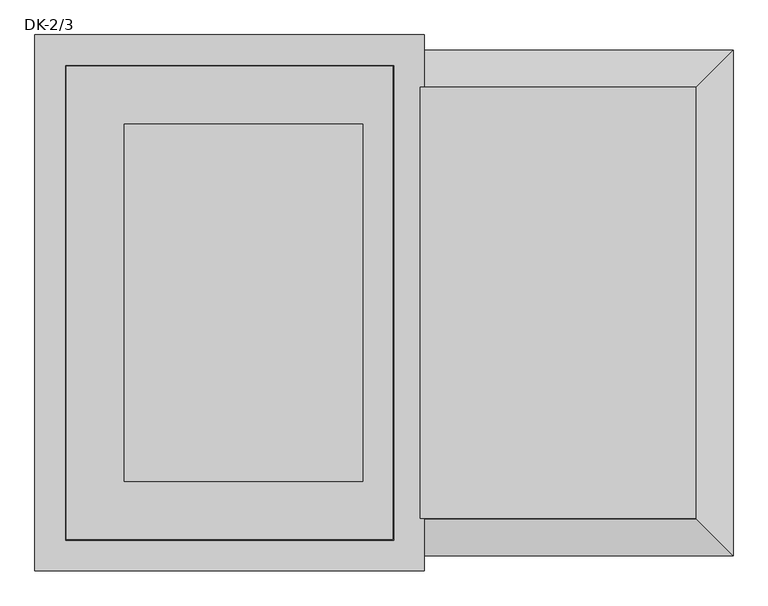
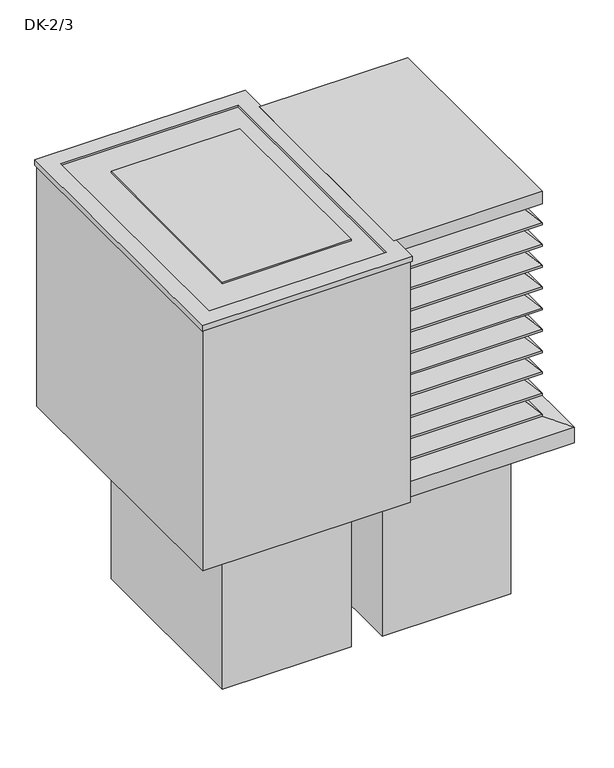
"""IFC4 building model written with IfcOpenShell, lengths in millimetres: air terminal geometry, NLRS_57_AIR_FB_Dakkap DK-23_SMA : DK-2/3."""

from ifc_helpers import new_model, si_unit, frame, origin, place, context, project, spatial, polyline, outline, extrude, faceted_brep, source, transform, mapped, element, save


def dk_2_3_f9d83f74(model_context):
    return source(origin(), model_context, "Body", "SolidModel", [
        faceted_brep([(462.5, 362.5, 780.0), (462.5, 362.5, 786.36499), (462.5, -362.5, 786.36499), (462.5, -362.5, 780.0), (461.5, 361.5, 785.9507764), (461.5, 361.5, 780.0), (461.5, -361.5, 780.0), (461.5, -361.5, 785.9507764), (400.0, 300.0, 847.4507764), (400.0, -300.0, 847.4507764), (400.0, 300.0, 850.0), (400.0, -300.0, 850.0), (401.0, 301.0, 847.86499), (401.0, 301.0, 850.0), (401.0, -301.0, 850.0), (401.0, -301.0, 847.86499), (0.0, -362.5, 786.36499), (0.0, -362.5, 780.0), (0.0, -361.5, 780.0), (0.0, -361.5, 785.9507764), (0.0, -300.0, 847.4507764), (0.0, -300.0, 850.0), (0.0, -301.0, 850.0), (0.0, -301.0, 847.86499), (0.0, 362.5, 780.0), (0.0, 362.5, 786.36499), (0.0, 361.5, 780.0), (0.0, 361.5, 785.9507764), (0.0, 300.0, 847.4507764), (0.0, 300.0, 850.0), (0.0, 301.0, 850.0), (0.0, 301.0, 847.86499)], [[[0, 1, 2, 3]], [[4, 5, 6, 7]], [[8, 4, 7, 9]], [[10, 8, 9, 11]], [[12, 13, 14, 15]], [[1, 12, 15, 2]], [[3, 2, 16, 17]], [[7, 6, 18, 19]], [[9, 7, 19, 20]], [[11, 9, 20, 21]], [[15, 14, 22, 23]], [[2, 15, 23, 16]], [[24, 25, 1, 0]], [[26, 24, 0, 3, 17, 18, 6, 5]], [[27, 26, 5, 4]], [[28, 27, 4, 8]], [[29, 28, 8, 10]], [[30, 29, 10, 11, 21, 22, 14, 13]], [[31, 30, 13, 12]], [[25, 31, 12, 1]], [[25, 24, 26, 27, 28, 29, 30, 31]], [[16, 23, 22, 21, 20, 19, 18, 17]]]),
        faceted_brep([(462.5, 362.5, 710.0), (462.5, 362.5, 716.36499), (462.5, -362.5, 716.36499), (462.5, -362.5, 710.0), (461.5, 361.5, 715.9507764), (461.5, 361.5, 710.0), (461.5, -361.5, 710.0), (461.5, -361.5, 715.9507764), (400.0, 300.0, 777.4507764), (400.0, -300.0, 777.4507764), (400.0, 300.0, 780.0), (400.0, -300.0, 780.0), (401.0, 301.0, 777.86499), (401.0, 301.0, 780.0), (401.0, -301.0, 780.0), (401.0, -301.0, 777.86499), (0.0, -362.5, 716.36499), (0.0, -362.5, 710.0), (0.0, -361.5, 710.0), (0.0, -361.5, 715.9507764), (0.0, -300.0, 777.4507764), (0.0, -300.0, 780.0), (0.0, -301.0, 780.0), (0.0, -301.0, 777.86499), (0.0, 362.5, 710.0), (0.0, 362.5, 716.36499), (0.0, 361.5, 710.0), (0.0, 361.5, 715.9507764), (0.0, 300.0, 777.4507764), (0.0, 300.0, 780.0), (0.0, 301.0, 780.0), (0.0, 301.0, 777.86499)], [[[0, 1, 2, 3]], [[4, 5, 6, 7]], [[8, 4, 7, 9]], [[10, 8, 9, 11]], [[12, 13, 14, 15]], [[1, 12, 15, 2]], [[3, 2, 16, 17]], [[7, 6, 18, 19]], [[9, 7, 19, 20]], [[11, 9, 20, 21]], [[15, 14, 22, 23]], [[2, 15, 23, 16]], [[24, 25, 1, 0]], [[26, 24, 0, 3, 17, 18, 6, 5]], [[27, 26, 5, 4]], [[28, 27, 4, 8]], [[29, 28, 8, 10]], [[30, 29, 10, 11, 21, 22, 14, 13]], [[31, 30, 13, 12]], [[25, 31, 12, 1]], [[25, 24, 26, 27, 28, 29, 30, 31]], [[16, 23, 22, 21, 20, 19, 18, 17]]]),
        faceted_brep([(462.5, 362.5, 640.0), (462.5, 362.5, 646.36499), (462.5, -362.5, 646.36499), (462.5, -362.5, 640.0), (461.5, 361.5, 645.9507764), (461.5, 361.5, 640.0), (461.5, -361.5, 640.0), (461.5, -361.5, 645.9507764), (400.0, 300.0, 707.4507764), (400.0, -300.0, 707.4507764), (400.0, 300.0, 710.0), (400.0, -300.0, 710.0), (401.0, 301.0, 707.86499), (401.0, 301.0, 710.0), (401.0, -301.0, 710.0), (401.0, -301.0, 707.86499), (0.0, -362.5, 646.36499), (0.0, -362.5, 640.0), (0.0, -361.5, 640.0), (0.0, -361.5, 645.9507764), (0.0, -300.0, 707.4507764), (0.0, -300.0, 710.0), (0.0, -301.0, 710.0), (0.0, -301.0, 707.86499), (0.0, 362.5, 640.0), (0.0, 362.5, 646.36499), (0.0, 361.5, 640.0), (0.0, 361.5, 645.9507764), (0.0, 300.0, 707.4507764), (0.0, 300.0, 710.0), (0.0, 301.0, 710.0), (0.0, 301.0, 707.86499)], [[[0, 1, 2, 3]], [[4, 5, 6, 7]], [[8, 4, 7, 9]], [[10, 8, 9, 11]], [[12, 13, 14, 15]], [[1, 12, 15, 2]], [[3, 2, 16, 17]], [[7, 6, 18, 19]], [[9, 7, 19, 20]], [[11, 9, 20, 21]], [[15, 14, 22, 23]], [[2, 15, 23, 16]], [[24, 25, 1, 0]], [[26, 24, 0, 3, 17, 18, 6, 5]], [[27, 26, 5, 4]], [[28, 27, 4, 8]], [[29, 28, 8, 10]], [[30, 29, 10, 11, 21, 22, 14, 13]], [[31, 30, 13, 12]], [[25, 31, 12, 1]], [[25, 24, 26, 27, 28, 29, 30, 31]], [[16, 23, 22, 21, 20, 19, 18, 17]]]),
        faceted_brep([(462.5, 362.5, 570.0), (462.5, 362.5, 576.36499), (462.5, -362.5, 576.36499), (462.5, -362.5, 570.0), (461.5, 361.5, 575.9507764), (461.5, 361.5, 570.0), (461.5, -361.5, 570.0), (461.5, -361.5, 575.9507764), (400.0, 300.0, 637.4507764), (400.0, -300.0, 637.4507764), (400.0, 300.0, 640.0), (400.0, -300.0, 640.0), (401.0, 301.0, 637.86499), (401.0, 301.0, 640.0), (401.0, -301.0, 640.0), (401.0, -301.0, 637.86499), (0.0, -362.5, 576.36499), (0.0, -362.5, 570.0), (0.0, -361.5, 570.0), (0.0, -361.5, 575.9507764), (0.0, -300.0, 637.4507764), (0.0, -300.0, 640.0), (0.0, -301.0, 640.0), (0.0, -301.0, 637.86499), (0.0, 362.5, 570.0), (0.0, 362.5, 576.36499), (0.0, 361.5, 570.0), (0.0, 361.5, 575.9507764), (0.0, 300.0, 637.4507764), (0.0, 300.0, 640.0), (0.0, 301.0, 640.0), (0.0, 301.0, 637.86499)], [[[0, 1, 2, 3]], [[4, 5, 6, 7]], [[8, 4, 7, 9]], [[10, 8, 9, 11]], [[12, 13, 14, 15]], [[1, 12, 15, 2]], [[3, 2, 16, 17]], [[7, 6, 18, 19]], [[9, 7, 19, 20]], [[11, 9, 20, 21]], [[15, 14, 22, 23]], [[2, 15, 23, 16]], [[24, 25, 1, 0]], [[26, 24, 0, 3, 17, 18, 6, 5]], [[27, 26, 5, 4]], [[28, 27, 4, 8]], [[29, 28, 8, 10]], [[30, 29, 10, 11, 21, 22, 14, 13]], [[31, 30, 13, 12]], [[25, 31, 12, 1]], [[25, 24, 26, 27, 28, 29, 30, 31]], [[16, 23, 22, 21, 20, 19, 18, 17]]]),
        faceted_brep([(462.5, 362.5, 500.0), (462.5, 362.5, 506.36499), (462.5, -362.5, 506.36499), (462.5, -362.5, 500.0), (461.5, 361.5, 505.9507764), (461.5, 361.5, 500.0), (461.5, -361.5, 500.0), (461.5, -361.5, 505.9507764), (400.0, 300.0, 567.4507764), (400.0, -300.0, 567.4507764), (400.0, 300.0, 570.0), (400.0, -300.0, 570.0), (401.0, 301.0, 567.86499), (401.0, 301.0, 570.0), (401.0, -301.0, 570.0), (401.0, -301.0, 567.86499), (0.0, -362.5, 506.36499), (0.0, -362.5, 500.0), (0.0, -361.5, 500.0), (0.0, -361.5, 505.9507764), (0.0, -300.0, 567.4507764), (0.0, -300.0, 570.0), (0.0, -301.0, 570.0), (0.0, -301.0, 567.86499), (0.0, 362.5, 500.0), (0.0, 362.5, 506.36499), (0.0, 361.5, 500.0), (0.0, 361.5, 505.9507764), (0.0, 300.0, 567.4507764), (0.0, 300.0, 570.0), (0.0, 301.0, 570.0), (0.0, 301.0, 567.86499)], [[[0, 1, 2, 3]], [[4, 5, 6, 7]], [[8, 4, 7, 9]], [[10, 8, 9, 11]], [[12, 13, 14, 15]], [[1, 12, 15, 2]], [[3, 2, 16, 17]], [[7, 6, 18, 19]], [[9, 7, 19, 20]], [[11, 9, 20, 21]], [[15, 14, 22, 23]], [[2, 15, 23, 16]], [[24, 25, 1, 0]], [[26, 24, 0, 3, 17, 18, 6, 5]], [[27, 26, 5, 4]], [[28, 27, 4, 8]], [[29, 28, 8, 10]], [[30, 29, 10, 11, 21, 22, 14, 13]], [[31, 30, 13, 12]], [[25, 31, 12, 1]], [[25, 24, 26, 27, 28, 29, 30, 31]], [[16, 23, 22, 21, 20, 19, 18, 17]]]),
        faceted_brep([(462.5, 362.5, 430.0), (462.5, 362.5, 436.36499), (462.5, -362.5, 436.36499), (462.5, -362.5, 430.0), (461.5, 361.5, 435.9507764), (461.5, 361.5, 430.0), (461.5, -361.5, 430.0), (461.5, -361.5, 435.9507764), (400.0, 300.0, 497.4507764), (400.0, -300.0, 497.4507764), (400.0, 300.0, 500.0), (400.0, -300.0, 500.0), (401.0, 301.0, 497.86499), (401.0, 301.0, 500.0), (401.0, -301.0, 500.0), (401.0, -301.0, 497.86499), (0.0, -362.5, 436.36499), (0.0, -362.5, 430.0), (0.0, -361.5, 430.0), (0.0, -361.5, 435.9507764), (0.0, -300.0, 497.4507764), (0.0, -300.0, 500.0), (0.0, -301.0, 500.0), (0.0, -301.0, 497.86499), (0.0, 362.5, 430.0), (0.0, 362.5, 436.36499), (0.0, 361.5, 430.0), (0.0, 361.5, 435.9507764), (0.0, 300.0, 497.4507764), (0.0, 300.0, 500.0), (0.0, 301.0, 500.0), (0.0, 301.0, 497.86499)], [[[0, 1, 2, 3]], [[4, 5, 6, 7]], [[8, 4, 7, 9]], [[10, 8, 9, 11]], [[12, 13, 14, 15]], [[1, 12, 15, 2]], [[3, 2, 16, 17]], [[7, 6, 18, 19]], [[9, 7, 19, 20]], [[11, 9, 20, 21]], [[15, 14, 22, 23]], [[2, 15, 23, 16]], [[24, 25, 1, 0]], [[26, 24, 0, 3, 17, 18, 6, 5]], [[27, 26, 5, 4]], [[28, 27, 4, 8]], [[29, 28, 8, 10]], [[30, 29, 10, 11, 21, 22, 14, 13]], [[31, 30, 13, 12]], [[25, 31, 12, 1]], [[25, 24, 26, 27, 28, 29, 30, 31]], [[16, 23, 22, 21, 20, 19, 18, 17]]]),
        faceted_brep([(462.5, 362.5, 360.0), (462.5, 362.5, 366.36499), (462.5, -362.5, 366.36499), (462.5, -362.5, 360.0), (461.5, 361.5, 365.9507764), (461.5, 361.5, 360.0), (461.5, -361.5, 360.0), (461.5, -361.5, 365.9507764), (400.0, 300.0, 427.4507764), (400.0, -300.0, 427.4507764), (400.0, 300.0, 430.0), (400.0, -300.0, 430.0), (401.0, 301.0, 427.86499), (401.0, 301.0, 430.0), (401.0, -301.0, 430.0), (401.0, -301.0, 427.86499), (0.0, -362.5, 366.36499), (0.0, -362.5, 360.0), (0.0, -361.5, 360.0), (0.0, -361.5, 365.9507764), (0.0, -300.0, 427.4507764), (0.0, -300.0, 430.0), (0.0, -301.0, 430.0), (0.0, -301.0, 427.86499), (0.0, 362.5, 360.0), (0.0, 362.5, 366.36499), (0.0, 361.5, 360.0), (0.0, 361.5, 365.9507764), (0.0, 300.0, 427.4507764), (0.0, 300.0, 430.0), (0.0, 301.0, 430.0), (0.0, 301.0, 427.86499)], [[[0, 1, 2, 3]], [[4, 5, 6, 7]], [[8, 4, 7, 9]], [[10, 8, 9, 11]], [[12, 13, 14, 15]], [[1, 12, 15, 2]], [[3, 2, 16, 17]], [[7, 6, 18, 19]], [[9, 7, 19, 20]], [[11, 9, 20, 21]], [[15, 14, 22, 23]], [[2, 15, 23, 16]], [[24, 25, 1, 0]], [[26, 24, 0, 3, 17, 18, 6, 5]], [[27, 26, 5, 4]], [[28, 27, 4, 8]], [[29, 28, 8, 10]], [[30, 29, 10, 11, 21, 22, 14, 13]], [[31, 30, 13, 12]], [[25, 31, 12, 1]], [[25, 24, 26, 27, 28, 29, 30, 31]], [[16, 23, 22, 21, 20, 19, 18, 17]]]),
        faceted_brep([(462.5, 362.5, 290.0), (462.5, 362.5, 296.36499), (462.5, -362.5, 296.36499), (462.5, -362.5, 290.0), (461.5, 361.5, 295.9507764), (461.5, 361.5, 290.0), (461.5, -361.5, 290.0), (461.5, -361.5, 295.9507764), (400.0, 300.0, 357.4507764), (400.0, -300.0, 357.4507764), (400.0, 300.0, 360.0), (400.0, -300.0, 360.0), (401.0, 301.0, 357.86499), (401.0, 301.0, 360.0), (401.0, -301.0, 360.0), (401.0, -301.0, 357.86499), (0.0, -362.5, 296.36499), (0.0, -362.5, 290.0), (0.0, -361.5, 290.0), (0.0, -361.5, 295.9507764), (0.0, -300.0, 357.4507764), (0.0, -300.0, 360.0), (0.0, -301.0, 360.0), (0.0, -301.0, 357.86499), (0.0, 362.5, 290.0), (0.0, 362.5, 296.36499), (0.0, 361.5, 290.0), (0.0, 361.5, 295.9507764), (0.0, 300.0, 357.4507764), (0.0, 300.0, 360.0), (0.0, 301.0, 360.0), (0.0, 301.0, 357.86499)], [[[0, 1, 2, 3]], [[4, 5, 6, 7]], [[8, 4, 7, 9]], [[10, 8, 9, 11]], [[12, 13, 14, 15]], [[1, 12, 15, 2]], [[3, 2, 16, 17]], [[7, 6, 18, 19]], [[9, 7, 19, 20]], [[11, 9, 20, 21]], [[15, 14, 22, 23]], [[2, 15, 23, 16]], [[24, 25, 1, 0]], [[26, 24, 0, 3, 17, 18, 6, 5]], [[27, 26, 5, 4]], [[28, 27, 4, 8]], [[29, 28, 8, 10]], [[30, 29, 10, 11, 21, 22, 14, 13]], [[31, 30, 13, 12]], [[25, 31, 12, 1]], [[25, 24, 26, 27, 28, 29, 30, 31]], [[16, 23, 22, 21, 20, 19, 18, 17]]]),
        faceted_brep([(462.5, 362.5, 850.0), (462.5, 362.5, 856.36499), (462.5, -362.5, 856.36499), (462.5, -362.5, 850.0), (461.5, 361.5, 855.9507764), (461.5, 361.5, 850.0), (461.5, -361.5, 850.0), (461.5, -361.5, 855.9507764), (400.0, 300.0, 917.4507764), (400.0, -300.0, 917.4507764), (400.0, 300.0, 920.0), (400.0, -300.0, 920.0), (401.0, 301.0, 917.86499), (401.0, 301.0, 920.0), (401.0, -301.0, 920.0), (401.0, -301.0, 917.86499), (0.0, -362.5, 856.36499), (0.0, -362.5, 850.0), (0.0, -361.5, 850.0), (0.0, -361.5, 855.9507764), (0.0, -300.0, 917.4507764), (0.0, -300.0, 920.0), (0.0, -301.0, 920.0), (0.0, -301.0, 917.86499), (0.0, 362.5, 850.0), (0.0, 362.5, 856.36499), (0.0, 361.5, 850.0), (0.0, 361.5, 855.9507764), (0.0, 300.0, 917.4507764), (0.0, 300.0, 920.0), (0.0, 301.0, 920.0), (0.0, 301.0, 917.86499)], [[[0, 1, 2, 3]], [[4, 5, 6, 7]], [[8, 4, 7, 9]], [[10, 8, 9, 11]], [[12, 13, 14, 15]], [[1, 12, 15, 2]], [[3, 2, 16, 17]], [[7, 6, 18, 19]], [[9, 7, 19, 20]], [[11, 9, 20, 21]], [[15, 14, 22, 23]], [[2, 15, 23, 16]], [[24, 25, 1, 0]], [[26, 24, 0, 3, 17, 18, 6, 5]], [[27, 26, 5, 4]], [[28, 27, 4, 8]], [[29, 28, 8, 10]], [[30, 29, 10, 11, 21, 22, 14, 13]], [[31, 30, 13, 12]], [[25, 31, 12, 1]], [[25, 24, 26, 27, 28, 29, 30, 31]], [[16, 23, 22, 21, 20, 19, 18, 17]]]),
        faceted_brep([(462.5, 362.5, 220.0), (462.5, 362.5, 226.36499), (462.5, -362.5, 226.36499), (462.5, -362.5, 220.0), (461.5, 361.5, 225.9507764), (461.5, 361.5, 220.0), (461.5, -361.5, 220.0), (461.5, -361.5, 225.9507764), (400.0, 300.0, 287.4507764), (400.0, -300.0, 287.4507764), (400.0, 300.0, 290.0), (400.0, -300.0, 290.0), (401.0, 301.0, 287.86499), (401.0, 301.0, 290.0), (401.0, -301.0, 290.0), (401.0, -301.0, 287.86499), (0.0, -362.5, 226.36499), (0.0, -362.5, 220.0), (0.0, -361.5, 220.0), (0.0, -361.5, 225.9507764), (0.0, -300.0, 287.4507764), (0.0, -300.0, 290.0), (0.0, -301.0, 290.0), (0.0, -301.0, 287.86499), (0.0, 362.5, 220.0), (0.0, 362.5, 226.36499), (0.0, 361.5, 220.0), (0.0, 361.5, 225.9507764), (0.0, 300.0, 287.4507764), (0.0, 300.0, 290.0), (0.0, 301.0, 290.0), (0.0, 301.0, 287.86499)], [[[0, 1, 2, 3]], [[4, 5, 6, 7]], [[8, 4, 7, 9]], [[10, 8, 9, 11]], [[12, 13, 14, 15]], [[1, 12, 15, 2]], [[3, 2, 16, 17]], [[7, 6, 18, 19]], [[9, 7, 19, 20]], [[11, 9, 20, 21]], [[15, 14, 22, 23]], [[2, 15, 23, 16]], [[24, 25, 1, 0]], [[26, 24, 0, 3, 17, 18, 6, 5]], [[27, 26, 5, 4]], [[28, 27, 4, 8]], [[29, 28, 8, 10]], [[30, 29, 10, 11, 21, 22, 14, 13]], [[31, 30, 13, 12]], [[25, 31, 12, 1]], [[25, 24, 26, 27, 28, 29, 30, 31]], [[16, 23, 22, 21, 20, 19, 18, 17]]]),
        extrude(outline(polyline([(400.0, 300.0), (400.0, -300.0), (0.0, -300.0), (0.0, 300.0), (400.0, 300.0)]), holes=[polyline([(390.0, 290.0), (10.0, 290.0), (10.0, -290.0), (390.0, -290.0), (390.0, 290.0)])]), frame((0.0, 0.0, -380.0), z_axis=(0.0, 0.0, 1.0), x_axis=(1.0, 0.0, 0.0)), (0.0, 0.0, 1.0), 580.0),
        extrude(outline(polyline([(462.5, 362.5), (462.5, -362.5), (0.0, -362.5), (0.0, 362.5), (462.5, 362.5)])), frame((0.0, 0.0, 920.0), z_axis=(0.0, 0.0, 1.0), x_axis=(1.0, 0.0, 0.0)), (0.0, 0.0, 1.0), 40.0),
        faceted_brep([(-97.05, 300.0, 200.0), (-497.05, 300.0, 200.0), (-497.05, -300.0, 200.0), (-97.05, -300.0, 200.0), (-107.05, 290.0, 200.0), (-107.05, -290.0, 200.0), (-487.05, -290.0, 200.0), (-487.05, 290.0, 200.0), (-97.05, 300.0, -380.0), (-97.05, -300.0, -380.0), (-497.05, -300.0, -380.0), (-497.05, 300.0, -380.0), (-107.05, 290.0, -380.0), (-487.05, 290.0, -380.0), (-487.05, -290.0, -380.0), (-107.05, -290.0, -380.0)], [[[0, 1, 2, 3], [4, 5, 6, 7]], [[8, 9, 10, 11], [12, 13, 14, 15]], [[1, 0, 8, 11]], [[2, 1, 11, 10]], [[3, 2, 10, 9]], [[0, 3, 9, 8]], [[5, 4, 12, 15]], [[6, 5, 15, 14]], [[7, 6, 14, 13]], [[4, 7, 13, 12]]]),
        faceted_brep([(-97.05, 300.0, 960.0), (-497.05, 300.0, 960.0), (-497.05, -300.0, 960.0), (-97.05, -300.0, 960.0), (-97.05, 300.0, 953.2029442), (-97.05, -300.0, 953.2029442), (-497.05, -300.0, 953.2029442), (-497.05, 300.0, 953.2029442), (-97.05, 300.0, 955.0), (-144.0, 300.0, 955.0), (-497.05, 300.0, 955.0), (-497.05, 300.0, 953.9627225), (-144.0, 300.0, 953.9627225), (-97.05, 300.0, 953.9627225), (-497.05, -300.0, 955.0), (-497.05, -300.0, 953.9627225), (-144.0, -300.0, 955.0), (-97.05, -300.0, 955.0), (-97.05, -300.0, 953.9627225), (-144.0, -300.0, 953.9627225), (-89.0, 355.0, 152.2), (-89.0, 355.0, 150.0), (-89.0, -355.0, 150.0), (-89.0, -355.0, 152.2), (0.0, 444.0, 958.0), (0.0, 444.0, 152.2), (0.0, -444.0, 152.2), (0.0, -444.0, 958.0), (-43.0, 401.0, 947.5), (-43.0, 401.0, 958.0), (-43.0, -401.0, 958.0), (-43.0, -401.0, 947.5), (-57.5, 386.5, 948.7687085), (-57.5, 386.5, 947.5), (-57.5, -386.5, 947.5), (-57.5, -386.5, 948.7687085), (-47.5, 396.5, 953.9627225), (-47.5, 396.5, 948.7687085), (-47.5, -396.5, 948.7687085), (-47.5, -396.5, 953.9627225), (-46.5, 397.5, 948.7687085), (-46.5, 397.5, 955.0), (-46.5, -397.5, 955.0), (-46.5, -397.5, 948.7687085), (-45.0, 399.0, 960.0), (-45.0, 399.0, 948.7687085), (-45.0, -399.0, 948.7687085), (-45.0, -399.0, 960.0), (6.4142136, 450.4142136, 942.5), (6.4142136, 450.4142136, 960.0), (6.4142136, -450.4142136, 960.0), (6.4142136, -450.4142136, 942.5), (5.0, 449.0, 958.0), (5.0, 449.0, 942.5), (5.0, -449.0, 942.5), (5.0, -449.0, 958.0), (3.0, 447.0, 150.0), (3.0, 447.0, 958.0), (3.0, -447.0, 958.0), (3.0, -447.0, 150.0), (-552.05, -355.0, 150.0), (-552.05, -355.0, 152.2), (-641.05, -444.0, 152.2), (-641.05, -444.0, 958.0), (-598.05, -401.0, 958.0), (-598.05, -401.0, 947.5), (-583.55, -386.5, 947.5), (-583.55, -386.5, 948.7687085), (-593.55, -396.5, 948.7687085), (-593.55, -396.5, 953.9627225), (-594.55, -397.5, 955.0), (-594.55, -397.5, 948.7687085), (-596.05, -399.0, 948.7687085), (-596.05, -399.0, 960.0), (-647.4642136, -450.4142136, 960.0), (-647.4642136, -450.4142136, 942.5), (-646.05, -449.0, 942.5), (-646.05, -449.0, 958.0), (-644.05, -447.0, 958.0), (-644.05, -447.0, 150.0), (-552.05, 355.0, 150.0), (-552.05, 355.0, 152.2), (-641.05, 444.0, 152.2), (-641.05, 444.0, 958.0), (-598.05, 401.0, 958.0), (-598.05, 401.0, 947.5), (-583.55, 386.5, 947.5), (-583.55, 386.5, 948.7687085), (-593.55, 396.5, 948.7687085), (-593.55, 396.5, 953.9627225), (-594.55, 397.5, 955.0), (-594.55, 397.5, 948.7687085), (-596.05, 399.0, 948.7687085), (-596.05, 399.0, 960.0), (-647.4642136, 450.4142136, 960.0), (-647.4642136, 450.4142136, 942.5), (-646.05, 449.0, 942.5), (-646.05, 449.0, 958.0), (-644.05, 447.0, 958.0), (-644.05, 447.0, 150.0)], [[[0, 1, 2, 3]], [[4, 5, 6, 7]], [[1, 0, 8, 9, 10]], [[4, 7, 11, 12, 13]], [[2, 1, 10, 14]], [[7, 6, 15, 11]], [[3, 2, 14, 16, 17]], [[6, 5, 18, 19, 15]], [[0, 3, 17, 8]], [[5, 4, 13, 18]], [[20, 21, 22, 23]], [[24, 25, 26, 27]], [[28, 29, 30, 31]], [[32, 33, 34, 35]], [[36, 37, 38, 39]], [[40, 41, 42, 43]], [[44, 45, 46, 47]], [[48, 49, 50, 51]], [[52, 53, 54, 55]], [[56, 57, 58, 59]], [[23, 22, 60, 61]], [[27, 26, 62, 63]], [[31, 30, 64, 65]], [[35, 34, 66, 67]], [[39, 38, 68, 69]], [[43, 42, 70, 71]], [[47, 46, 72, 73]], [[51, 50, 74, 75]], [[55, 54, 76, 77]], [[59, 58, 78, 79]], [[61, 60, 80, 81]], [[63, 62, 82, 83]], [[65, 64, 84, 85]], [[67, 66, 86, 87]], [[69, 68, 88, 89]], [[71, 70, 90, 91]], [[73, 72, 92, 93]], [[75, 74, 94, 95]], [[77, 76, 96, 97]], [[79, 78, 98, 99]], [[56, 59, 79, 99], [22, 21, 80, 60]], [[21, 20, 81, 80]], [[26, 25, 82, 62], [20, 23, 61, 81]], [[25, 24, 83, 82]], [[24, 27, 63, 83], [30, 29, 84, 64]], [[29, 28, 85, 84]], [[28, 31, 65, 85], [34, 33, 86, 66]], [[33, 32, 87, 86]], [[38, 37, 88, 68], [32, 35, 67, 87]], [[37, 36, 89, 88]], [[36, 39, 69, 89], [13, 12, 11, 15, 19, 18]], [[42, 41, 90, 70], [10, 9, 8, 17, 16, 14]], [[41, 40, 91, 90]], [[46, 45, 92, 72], [40, 43, 71, 91]], [[45, 44, 93, 92]], [[50, 49, 94, 74], [44, 47, 73, 93]], [[49, 48, 95, 94]], [[48, 51, 75, 95], [54, 53, 96, 76]], [[53, 52, 97, 96]], [[52, 55, 77, 97], [58, 57, 98, 78]], [[57, 56, 99, 98]]]),
        faceted_brep([(400.0, 300.0, 240.0), (400.0, 300.0, 150.0), (400.0, -300.0, 150.0), (400.0, -300.0, 240.0), (525.0, 425.0, 150.0), (525.0, 425.0, 200.0), (525.0, -425.0, 200.0), (525.0, -425.0, 150.0), (-500.0, -300.0, 150.0), (-500.0, -300.0, 240.0), (-625.0, -425.0, 200.0), (-625.0, -425.0, 150.0), (-500.0, 300.0, 150.0), (-500.0, 300.0, 240.0), (-625.0, 425.0, 200.0), (-625.0, 425.0, 150.0)], [[[0, 1, 2, 3]], [[4, 5, 6, 7]], [[3, 2, 8, 9]], [[7, 6, 10, 11]], [[9, 8, 12, 13]], [[11, 10, 14, 15]], [[7, 11, 15, 4], [1, 12, 8, 2]], [[13, 12, 1, 0]], [[15, 14, 5, 4]], [[0, 3, 6, 5]], [[6, 3, 9, 10]], [[10, 9, 13, 14]], [[14, 13, 0, 5]]]),
    ])


if __name__ == "__main__":
    model = new_model("IFC4")
    model_context = context("Model", 3, world=origin())
    ifc_project = project(units=[si_unit("LENGTHUNIT", "METRE", prefix="MILLI")], contexts=[model_context])
    site = spatial("IfcSite", under=ifc_project)
    building = spatial("IfcBuilding", under=site)
    placement = place(None, origin())
    dk_2_3_shape = dk_2_3_f9d83f74(model_context)
    element("IfcAirTerminal", 1, ObjectType="NLRS_57_AIR_FB_Dakkap DK-23_SMA : DK-2/3", at=placement, inside=building, context=model_context, shape_type="MappedRepresentation", body=[
        mapped(dk_2_3_shape, transform((0.0, 0.0, 0.0), x_axis=(1.0, 0.0, 0.0), y_axis=(0.0, 1.0, 0.0), z_axis=(0.0, 0.0, 1.0))),
    ])
    save(model, "model.ifc")
